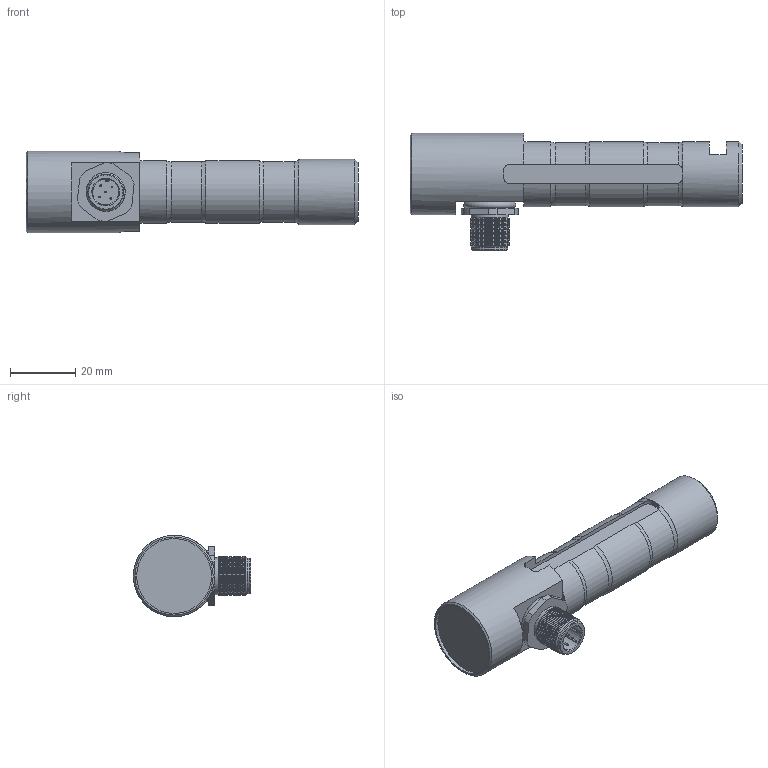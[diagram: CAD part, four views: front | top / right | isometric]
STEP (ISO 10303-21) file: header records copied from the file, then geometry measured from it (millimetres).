
FILE_DESCRIPTION(/* description */ ('Alibre Inc.'),/* implementation_level */ '2;1');
FILE_NAME(/* name */ 'export-810C4458-24E3-402A-85FD-6669CF8AD63D',/* time_stamp */ '2024-04-25T13:50:31+02:00',/* author */ (''),/* organization */ (''),/* preprocessor_version */ 'ST-DEVELOPER v17',/* originating_system */ 'Alibre',/* authorisation */ '');
FILE_SCHEMA (('CONFIG_CONTROL_DESIGN'));
Length unit declared in the file: centimetre
Bounding box: 102 x 36 x 25 mm (x, y, z)
Surface area: 162118.8 mm2
Topology: 7 solids, 8 shells, 212 faces, 465 edges, 276 vertices
Faces by surface type: cone 71, cylinder 71, plane 60, torus 10
Full cylindrical faces by diameter (mm): 0.5 x10, 8 x2, 10 x1, 11 x1, 11.5 x1, 12 x21, 13 x2, 14.5 x1, 20 x1, 23 x1, 25 x1
Entity records: 5060 total; most frequent: CARTESIAN_POINT 1088, ORIENTED_EDGE 726, DIRECTION 647, EDGE_CURVE 357, EDGE_LOOP 325, FACE_BOUND 325, AXIS2_PLACEMENT_3D 300, VERTEX_POINT 262
